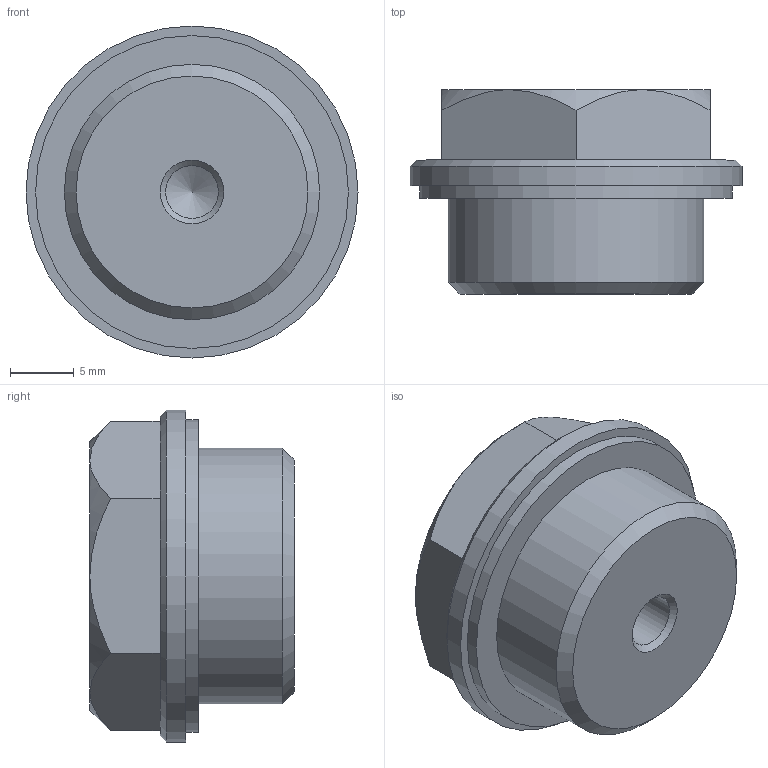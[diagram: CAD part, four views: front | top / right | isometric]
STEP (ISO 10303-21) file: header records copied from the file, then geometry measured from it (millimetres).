
FILE_DESCRIPTION( ( 'STEP AP203' ), '1' );
FILE_NAME( 'C:/Temp/Ganter_Step_05_03_2020/data/3_5/gn742/gn742_1/Threaded plug GN 742-26-M20x1,5-ESS-1.stp', '2020-03-12T13:39:08', ( 'License CC BY-ND 4.0' ), ( 'CADENAS' ), ' ', 'PARTsolutions', ' ' );
FILE_SCHEMA( ( 'CONFIG_CONTROL_DESIGN' ) );
Length unit declared in the file: millimetre
Products named in the file (1): _Threaded plug GN 742-26-M20x1,5-ESS-1
Bounding box: 26 x 16 x 26 mm (x, y, z)
Volume: 5761.1 mm3; surface area: 2251.8 mm2
Topology: 1 solids, 1 shells, 52 faces, 125 edges, 80 vertices
Faces by surface type: plane 38, cone 10, cylinder 4
Full cylindrical faces by diameter (mm): 4.134 x1, 20 x1, 24.5 x1, 26 x1
Entity records: 1545 total; most frequent: CARTESIAN_POINT 333, ORIENTED_EDGE 232, DIRECTION 227, EDGE_CURVE 116, LINE 87, VECTOR 87, VERTEX_POINT 80, AXIS2_PLACEMENT_3D 70
